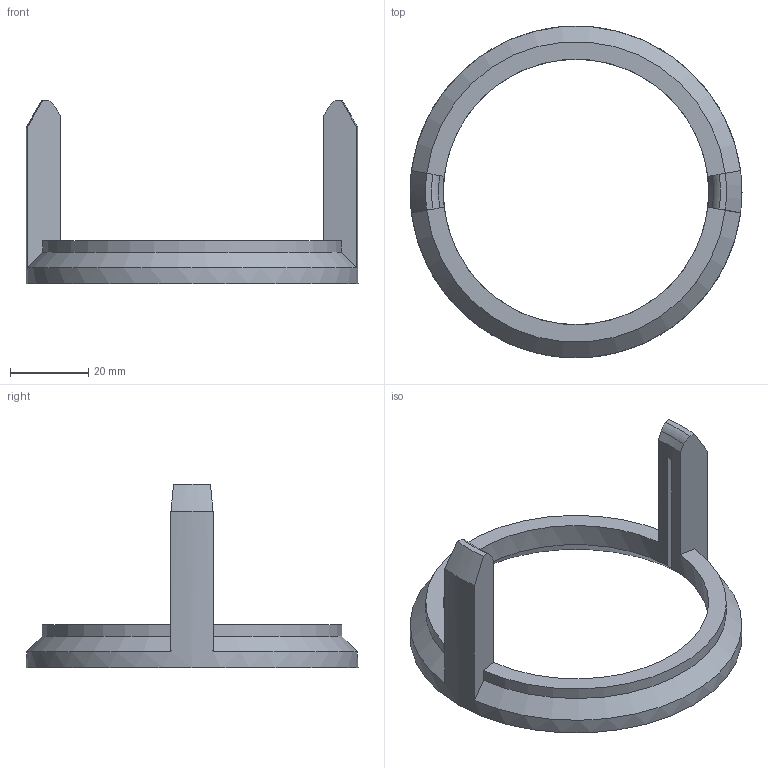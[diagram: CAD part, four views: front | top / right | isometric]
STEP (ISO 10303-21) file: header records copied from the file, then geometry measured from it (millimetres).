
FILE_DESCRIPTION(/* description */ (''),/* implementation_level */ '2;1');
FILE_NAME(/* name */ 'F:/F-Shared-Ryzen7 - PROD/F-OWL-PLANES/F-16 Falcon 64mm/STLs - REAL FOLDER/OWLplane OWL F-16 Falcon 64mm v1.2/OWL F-16 Falcon 64mm - SUPPORT ver 1.1/F-16 Falcon 64mm EDF BRACKETS/STEP/EDF-64 QX-Motor Bracket with Lip.step',/* time_stamp */ '2022-10-14T15:48:40+07:00',/* author */ (''),/* organization */ (''),/* preprocessor_version */ 'ST-DEVELOPER v19',/* originating_system */ 'Autodesk Translation Framework v11.7.0.108',/* authorisation */ '');
FILE_SCHEMA (('AUTOMOTIVE_DESIGN { 1 0 10303 214 3 1 1 }'));
Length unit declared in the file: millimetre
Products named in the file (2): EDF-64 QX-Motor Bracket with Lip; QX-Bracket incl Lip
Assembly tree (1 placements, depth 2):
  EDF-64 QX-Motor Bracket with Lip
    QX-Bracket incl Lip
Bounding box: 85 x 85 x 46.88 mm (x, y, z)
Volume: 19867.2 mm3; surface area: 11175.8 mm2
Topology: 1 solids, 1 shells, 30 faces, 87 edges, 58 vertices
Faces by surface type: plane 15, cone 7, cylinder 6, torus 2
Full cylindrical faces by diameter (mm): 68 x1, 85 x1
Entity records: 1079 total; most frequent: CARTESIAN_POINT 246, ORIENTED_EDGE 174, DIRECTION 165, EDGE_CURVE 87, AXIS2_PLACEMENT_3D 65, VERTEX_POINT 58, LINE 35, VECTOR 35
